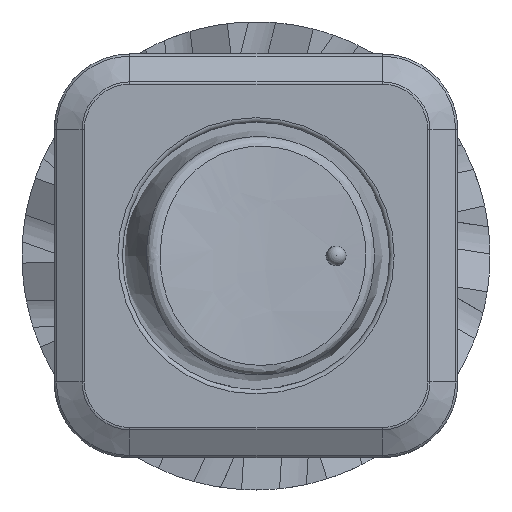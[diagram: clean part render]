
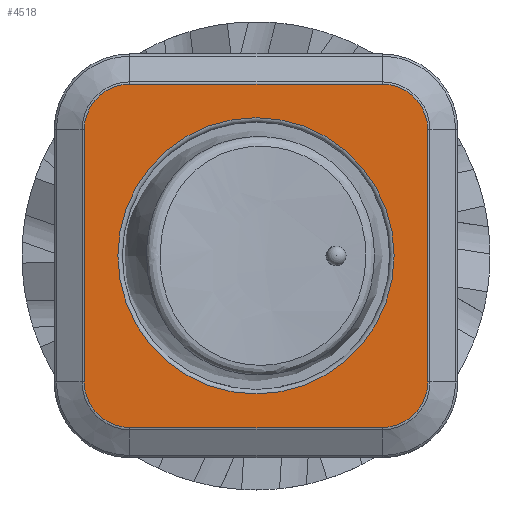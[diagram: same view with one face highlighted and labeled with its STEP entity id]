
A CAD part, top view. The second image highlights one B-rep face of the part: STEP entity #4518.
In plain terms, the highlighted planar face has unit normal (0, 0, 1).
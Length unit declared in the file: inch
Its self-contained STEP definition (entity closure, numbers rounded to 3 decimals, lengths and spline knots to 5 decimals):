
#225=PLANE('',#4925);
#359=FACE_BOUND('',#822,.T.);
#399=CIRCLE('',#4904,0.10232);
#404=CIRCLE('',#4911,0.10232);
#408=CIRCLE('',#4917,0.10232);
#411=CIRCLE('',#4922,0.10232);
#412=CIRCLE('',#4926,0.31);
#557=FACE_OUTER_BOUND('',#821,.T.);
#821=EDGE_LOOP('',(#3150,#3151,#3152,#3153,#3154,#3155,#3156,#3157));
#822=EDGE_LOOP('',(#3158));
#1093=LINE('',#6888,#1453);
#1095=LINE('',#6900,#1455);
#1097=LINE('',#6911,#1457);
#1098=LINE('',#6917,#1458);
#1453=VECTOR('',#5455,0.3937);
#1455=VECTOR('',#5469,0.3937);
#1457=VECTOR('',#5483,0.3937);
#1458=VECTOR('',#5492,0.3937);
#1910=VERTEX_POINT('',#6880);
#1911=VERTEX_POINT('',#6882);
#1912=VERTEX_POINT('',#6886);
#1913=VERTEX_POINT('',#6890);
#1915=VERTEX_POINT('',#6896);
#1917=VERTEX_POINT('',#6902);
#1919=VERTEX_POINT('',#6908);
#1920=VERTEX_POINT('',#6913);
#1921=VERTEX_POINT('',#6921);
#2385=EDGE_CURVE('',#1910,#1911,#399,.T.);
#2388=EDGE_CURVE('',#1911,#1912,#1093,.T.);
#2391=EDGE_CURVE('',#1912,#1913,#404,.T.);
#2394=EDGE_CURVE('',#1913,#1915,#1095,.T.);
#2397=EDGE_CURVE('',#1915,#1917,#408,.T.);
#2400=EDGE_CURVE('',#1917,#1919,#1097,.T.);
#2402=EDGE_CURVE('',#1919,#1920,#411,.T.);
#2403=EDGE_CURVE('',#1920,#1910,#1098,.T.);
#2405=EDGE_CURVE('',#1921,#1921,#412,.T.);
#3150=ORIENTED_EDGE('',*,*,#2385,.F.);
#3151=ORIENTED_EDGE('',*,*,#2403,.F.);
#3152=ORIENTED_EDGE('',*,*,#2402,.F.);
#3153=ORIENTED_EDGE('',*,*,#2400,.F.);
#3154=ORIENTED_EDGE('',*,*,#2397,.F.);
#3155=ORIENTED_EDGE('',*,*,#2394,.F.);
#3156=ORIENTED_EDGE('',*,*,#2391,.F.);
#3157=ORIENTED_EDGE('',*,*,#2388,.F.);
#3158=ORIENTED_EDGE('',*,*,#2405,.F.);
#4518=ADVANCED_FACE('',(#557,#359),#225,.T.);
#4904=AXIS2_PLACEMENT_3D('',#6883,#5447,#5448);
#4911=AXIS2_PLACEMENT_3D('',#6894,#5462,#5463);
#4917=AXIS2_PLACEMENT_3D('',#6906,#5476,#5477);
#4922=AXIS2_PLACEMENT_3D('',#6915,#5488,#5489);
#4925=AXIS2_PLACEMENT_3D('',#6920,#5496,#5497);
#4926=AXIS2_PLACEMENT_3D('',#6922,#5498,#5499);
#5447=DIRECTION('center_axis',(0.,0.,-1.));
#5448=DIRECTION('ref_axis',(-0.707,-0.707,0.));
#5455=DIRECTION('',(0.,1.,0.));
#5462=DIRECTION('center_axis',(0.,0.,-1.));
#5463=DIRECTION('ref_axis',(-0.707,0.707,0.));
#5469=DIRECTION('',(1.,0.,0.));
#5476=DIRECTION('center_axis',(0.,0.,-1.));
#5477=DIRECTION('ref_axis',(0.707,0.707,0.));
#5483=DIRECTION('',(0.,-1.,0.));
#5488=DIRECTION('center_axis',(0.,0.,-1.));
#5489=DIRECTION('ref_axis',(0.707,-0.707,0.));
#5492=DIRECTION('',(-1.,0.,0.));
#5496=DIRECTION('center_axis',(0.,0.,1.));
#5497=DIRECTION('ref_axis',(1.,0.,0.));
#5498=DIRECTION('center_axis',(0.,0.,1.));
#5499=DIRECTION('ref_axis',(-1.,0.,0.));
#6880=CARTESIAN_POINT('',(0.17,0.06768,0.09));
#6882=CARTESIAN_POINT('',(0.06768,0.17,0.09));
#6883=CARTESIAN_POINT('Origin',(0.17,0.17,0.09));
#6886=CARTESIAN_POINT('',(0.06768,0.736,0.09));
#6888=CARTESIAN_POINT('',(0.06768,0.56625,0.09));
#6890=CARTESIAN_POINT('',(0.17,0.83832,0.09));
#6894=CARTESIAN_POINT('Origin',(0.17,0.736,0.09));
#6896=CARTESIAN_POINT('',(0.736,0.83832,0.09));
#6900=CARTESIAN_POINT('',(0.56625,0.83832,0.09));
#6902=CARTESIAN_POINT('',(0.83832,0.736,0.09));
#6906=CARTESIAN_POINT('Origin',(0.736,0.736,0.09));
#6908=CARTESIAN_POINT('',(0.83832,0.17,0.09));
#6911=CARTESIAN_POINT('',(0.83832,0.33975,0.09));
#6913=CARTESIAN_POINT('',(0.736,0.06768,0.09));
#6915=CARTESIAN_POINT('Origin',(0.736,0.17,0.09));
#6917=CARTESIAN_POINT('',(0.33975,0.06768,0.09));
#6920=CARTESIAN_POINT('Origin',(0.453,0.453,0.09));
#6921=CARTESIAN_POINT('',(0.763,0.453,0.09));
#6922=CARTESIAN_POINT('Origin',(0.453,0.453,0.09));
